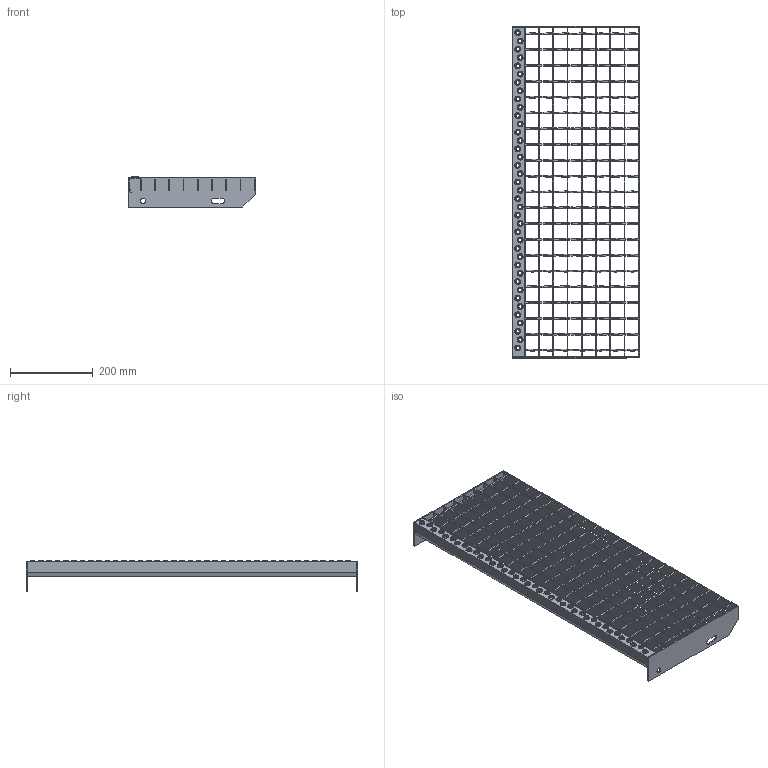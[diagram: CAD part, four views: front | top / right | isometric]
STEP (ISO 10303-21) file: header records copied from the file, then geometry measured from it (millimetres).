
FILE_DESCRIPTION(/* description */ ('STEP AP242','CAx-IF Rec.Pracs.---Representation and Presentation of Product Manufacturing Information (PMI)---4.0---2014-10-13','CAx-IF Rec.Pracs.---3D Tessellated Geometry---0.4---2014-09-14','2;1'),/* implementation_level */ '2;1');
FILE_NAME(/* name */ 'Lichtgitter_Forge_welded_stairtreads SP 230-34_38-2S-1-1-800-305-70-3-2_(350)',/* time_stamp */ '2026-06-11T13:37:05+02:00',/* author */ ('License CC BY-ND 4.0'),/* organization */ ('CADENAS'),/* preprocessor_version */ 'ST-DEVELOPER v20',/* originating_system */ 'PARTsolutions',/* authorisation */ ' ');
FILE_SCHEMA (('AP242_MANAGED_MODEL_BASED_3D_ENGINEERING_MIM_LF { 1 0 10303 442 1 1 4 }'));
Length unit declared in the file: millimetre
Products named in the file (6): Lichtgitter_Forge_welded_stairtreads SP 230-34/38-2S-1-1-800-305-70-3
-2_(350); Lichtgitter 305-800-350-2-34.33-2-70-3_LEFT; Lichtgitter 800-0-30-38.1-2-3_HORIZONTAL; Lichtgitter 305-800-350-2-34.33-70-3_RIGHT; Lichtgitter 800-350-38.1-2-2-3_FRONT; Lichtgitter SP 3.46530-34/38-3.465_(350_2_800_305_2_1.7)_VERTICAL_C
Assembly tree (33 placements, depth 2):
  Lichtgitter_Forge_welded_stairtreads SP 230-34/38-2S-1-1-800-305-70-3
-2_(350)
    Lichtgitter 305-800-350-2-34.33-2-70-3_LEFT
    Lichtgitter 800-0-30-38.1-2-3_HORIZONTAL  x9
    Lichtgitter 305-800-350-2-34.33-70-3_RIGHT
    Lichtgitter 800-350-38.1-2-2-3_FRONT
    Lichtgitter SP 3.46530-34/38-3.465_(350_2_800_305_2_1.7)_VERTICAL_C  x21
Bounding box: 305 x 800 x 72.46 mm (x, y, z)
Volume: 712375.8 mm3; surface area: 720234.8 mm2
Topology: 33 solids, 33 shells, 1841 faces, 4155 edges, 2380 vertices
Faces by surface type: bspline 1176, plane 313, cylinder 195, cone 117, torus 40
Full cylindrical faces by diameter (mm): 13 x2
Entity records: 8285 total; most frequent: CARTESIAN_POINT 1678, DIRECTION 1329, ORIENTED_EDGE 1068, EDGE_LOOP 541, FACE_BOUND 541, EDGE_CURVE 534, AXIS2_PLACEMENT_3D 525, VERTEX_POINT 405
